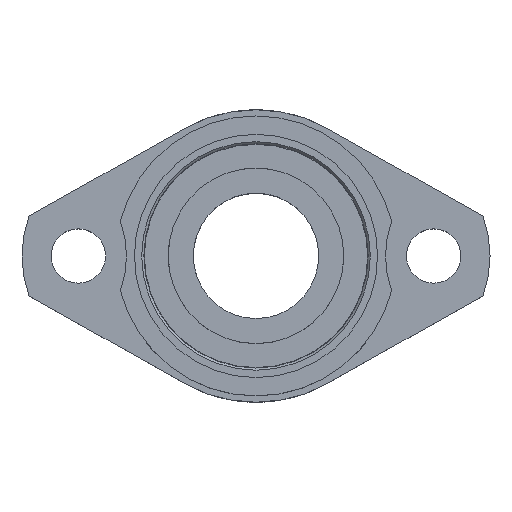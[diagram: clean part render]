
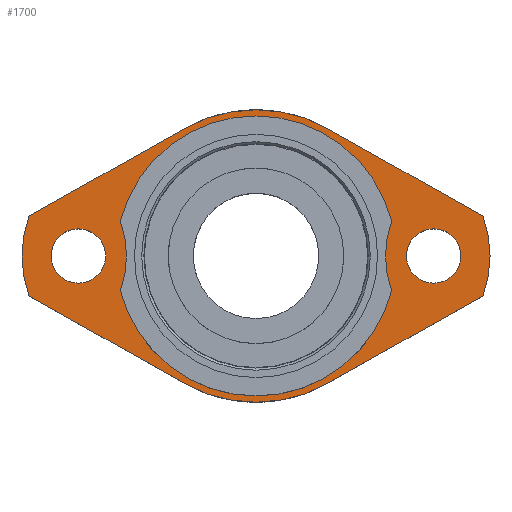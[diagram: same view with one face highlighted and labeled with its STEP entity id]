
A CAD part, top view. The second image highlights one B-rep face of the part: STEP entity #1700.
In plain terms, the highlighted planar face has unit normal (0, 0, 1).
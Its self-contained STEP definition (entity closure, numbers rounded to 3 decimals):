
#672=CARTESIAN_POINT('',(36.0,0.,0.));
#673=VERTEX_POINT('',#672);
#674=CARTESIAN_POINT('',(42.5,0.,0.0));
#675=DIRECTION('',(0.0,0.0,-1.0));
#676=DIRECTION('',(1.0,0.0,0.0));
#677=AXIS2_PLACEMENT_3D('',#674,#675,#676);
#678=CIRCLE('',#677,6.5);
#679=EDGE_CURVE('',#673,#673,#678,.T.);
#692=CARTESIAN_POINT('',(-49.0,0.,0.));
#693=VERTEX_POINT('',#692);
#694=CARTESIAN_POINT('',(-42.5,0.0,0.0));
#695=DIRECTION('',(0.0,0.0,-1.0));
#696=DIRECTION('',(1.0,0.0,0.0));
#697=AXIS2_PLACEMENT_3D('',#694,#695,#696);
#698=CIRCLE('',#697,6.5);
#699=EDGE_CURVE('',#693,#693,#698,.T.);
#1338=CARTESIAN_POINT('',(-32.44,-8.361,0.0));
#1339=VERTEX_POINT('',#1338);
#1346=CARTESIAN_POINT('',(32.44,-8.361,0.0));
#1347=VERTEX_POINT('',#1346);
#1348=CARTESIAN_POINT('',(0.0,0.0,0.));
#1349=DIRECTION('',(0.0,0.0,-1.0));
#1350=DIRECTION('',(0.968,0.25,0.0));
#1351=AXIS2_PLACEMENT_3D('',#1348,#1349,#1350);
#1352=CIRCLE('',#1351,33.5);
#1353=EDGE_CURVE('',#1347,#1339,#1352,.T.);
#1378=CARTESIAN_POINT('',(-32.44,8.361,0.0));
#1379=VERTEX_POINT('',#1378);
#1386=CARTESIAN_POINT('',(-56.0,0.0,0.));
#1387=DIRECTION('',(0.0,0.0,1.0));
#1388=DIRECTION('',(0.942,-0.334,0.0));
#1389=AXIS2_PLACEMENT_3D('',#1386,#1387,#1388);
#1390=CIRCLE('',#1389,25.);
#1391=EDGE_CURVE('',#1339,#1379,#1390,.T.);
#1411=CARTESIAN_POINT('',(32.44,8.361,0.0));
#1412=VERTEX_POINT('',#1411);
#1419=CARTESIAN_POINT('',(0.0,0.0,0.));
#1420=DIRECTION('',(0.0,0.0,-1.0));
#1421=DIRECTION('',(-0.968,-0.25,0.0));
#1422=AXIS2_PLACEMENT_3D('',#1419,#1420,#1421);
#1423=CIRCLE('',#1422,33.5);
#1424=EDGE_CURVE('',#1379,#1412,#1423,.T.);
#1443=CARTESIAN_POINT('',(56.0,0.,0.));
#1444=DIRECTION('',(0.0,0.0,1.0));
#1445=DIRECTION('',(-0.942,0.334,0.0));
#1446=AXIS2_PLACEMENT_3D('',#1443,#1444,#1445);
#1447=CIRCLE('',#1446,25.0);
#1448=EDGE_CURVE('',#1412,#1347,#1447,.T.);
#1474=CARTESIAN_POINT('',(54.339,-9.5,0.));
#1475=VERTEX_POINT('',#1474);
#1476=CARTESIAN_POINT('',(17.216,-30.473,0.));
#1477=VERTEX_POINT('',#1476);
#1478=CARTESIAN_POINT('',(54.339,-9.5,0.0));
#1479=DIRECTION('',(-0.871,-0.492,0.0));
#1480=VECTOR('',#1479,42.638);
#1481=LINE('',#1478,#1480);
#1482=EDGE_CURVE('',#1475,#1477,#1481,.T.);
#1508=CARTESIAN_POINT('',(-17.216,-30.473,0.));
#1509=VERTEX_POINT('',#1508);
#1510=CARTESIAN_POINT('',(0.0,0.0,0.0));
#1511=DIRECTION('',(0.0,0.0,-1.0));
#1512=DIRECTION('',(0.492,0.871,0.0));
#1513=AXIS2_PLACEMENT_3D('',#1510,#1511,#1512);
#1514=CIRCLE('',#1513,35.0);
#1515=EDGE_CURVE('',#1477,#1509,#1514,.T.);
#1534=CARTESIAN_POINT('',(-54.339,-9.5,0.));
#1535=VERTEX_POINT('',#1534);
#1536=CARTESIAN_POINT('',(-17.216,-30.473,0.0));
#1537=DIRECTION('',(-0.871,0.492,0.0));
#1538=VECTOR('',#1537,42.638);
#1539=LINE('',#1536,#1538);
#1540=EDGE_CURVE('',#1509,#1535,#1539,.T.);
#1558=CARTESIAN_POINT('',(-54.339,9.5,0.));
#1559=VERTEX_POINT('',#1558);
#1560=CARTESIAN_POINT('',(-28.0,0.0,0.0));
#1561=DIRECTION('',(0.0,0.0,-1.0));
#1562=DIRECTION('',(0.941,-0.339,0.0));
#1563=AXIS2_PLACEMENT_3D('',#1560,#1561,#1562);
#1564=CIRCLE('',#1563,28.);
#1565=EDGE_CURVE('',#1535,#1559,#1564,.T.);
#1583=CARTESIAN_POINT('',(-17.216,30.473,0.));
#1584=VERTEX_POINT('',#1583);
#1585=CARTESIAN_POINT('',(-54.339,9.5,0.0));
#1586=DIRECTION('',(0.871,0.492,0.0));
#1587=VECTOR('',#1586,42.638);
#1588=LINE('',#1585,#1587);
#1589=EDGE_CURVE('',#1559,#1584,#1588,.T.);
#1610=CARTESIAN_POINT('',(17.216,30.473,0.));
#1611=VERTEX_POINT('',#1610);
#1612=CARTESIAN_POINT('',(0.0,0.0,0.0));
#1613=DIRECTION('',(0.0,0.0,-1.0));
#1614=DIRECTION('',(-0.492,-0.871,0.0));
#1615=AXIS2_PLACEMENT_3D('',#1612,#1613,#1614);
#1616=CIRCLE('',#1615,35.0);
#1617=EDGE_CURVE('',#1584,#1611,#1616,.T.);
#1636=CARTESIAN_POINT('',(54.339,9.5,0.));
#1637=VERTEX_POINT('',#1636);
#1638=CARTESIAN_POINT('',(17.216,30.473,0.0));
#1639=DIRECTION('',(0.871,-0.492,0.0));
#1640=VECTOR('',#1639,42.638);
#1641=LINE('',#1638,#1640);
#1642=EDGE_CURVE('',#1611,#1637,#1641,.T.);
#1660=CARTESIAN_POINT('',(28.,0.0,0.0));
#1661=DIRECTION('',(0.0,0.0,-1.0));
#1662=DIRECTION('',(-0.941,0.339,0.0));
#1663=AXIS2_PLACEMENT_3D('',#1660,#1661,#1662);
#1664=CIRCLE('',#1663,28.);
#1665=EDGE_CURVE('',#1637,#1475,#1664,.T.);
#1673=CARTESIAN_POINT('',(0.,0.,0.));
#1674=DIRECTION('',(0.0,0.0,1.0));
#1675=DIRECTION('',(1.0,0.0,0.0));
#1676=AXIS2_PLACEMENT_3D('',#1673,#1674,#1675);
#1677=PLANE('',#1676);
#1678=ORIENTED_EDGE('',*,*,#1482,.F.);
#1679=ORIENTED_EDGE('',*,*,#1665,.F.);
#1680=ORIENTED_EDGE('',*,*,#1642,.F.);
#1681=ORIENTED_EDGE('',*,*,#1617,.F.);
#1682=ORIENTED_EDGE('',*,*,#1589,.F.);
#1683=ORIENTED_EDGE('',*,*,#1565,.F.);
#1684=ORIENTED_EDGE('',*,*,#1540,.F.);
#1685=ORIENTED_EDGE('',*,*,#1515,.F.);
#1686=EDGE_LOOP('',(#1678,#1679,#1680,#1681,#1682,#1683,#1684,#1685));
#1687=FACE_OUTER_BOUND('',#1686,.T.);
#1688=ORIENTED_EDGE('',*,*,#679,.T.);
#1689=EDGE_LOOP('',(#1688));
#1690=FACE_BOUND('',#1689,.T.);
#1691=ORIENTED_EDGE('',*,*,#699,.T.);
#1692=EDGE_LOOP('',(#1691));
#1693=FACE_BOUND('',#1692,.T.);
#1694=ORIENTED_EDGE('',*,*,#1353,.T.);
#1695=ORIENTED_EDGE('',*,*,#1391,.T.);
#1696=ORIENTED_EDGE('',*,*,#1424,.T.);
#1697=ORIENTED_EDGE('',*,*,#1448,.T.);
#1698=EDGE_LOOP('',(#1694,#1695,#1696,#1697));
#1699=FACE_BOUND('',#1698,.T.);
#1700=ADVANCED_FACE('',(#1687,#1690,#1693,#1699),#1677,.T.);
